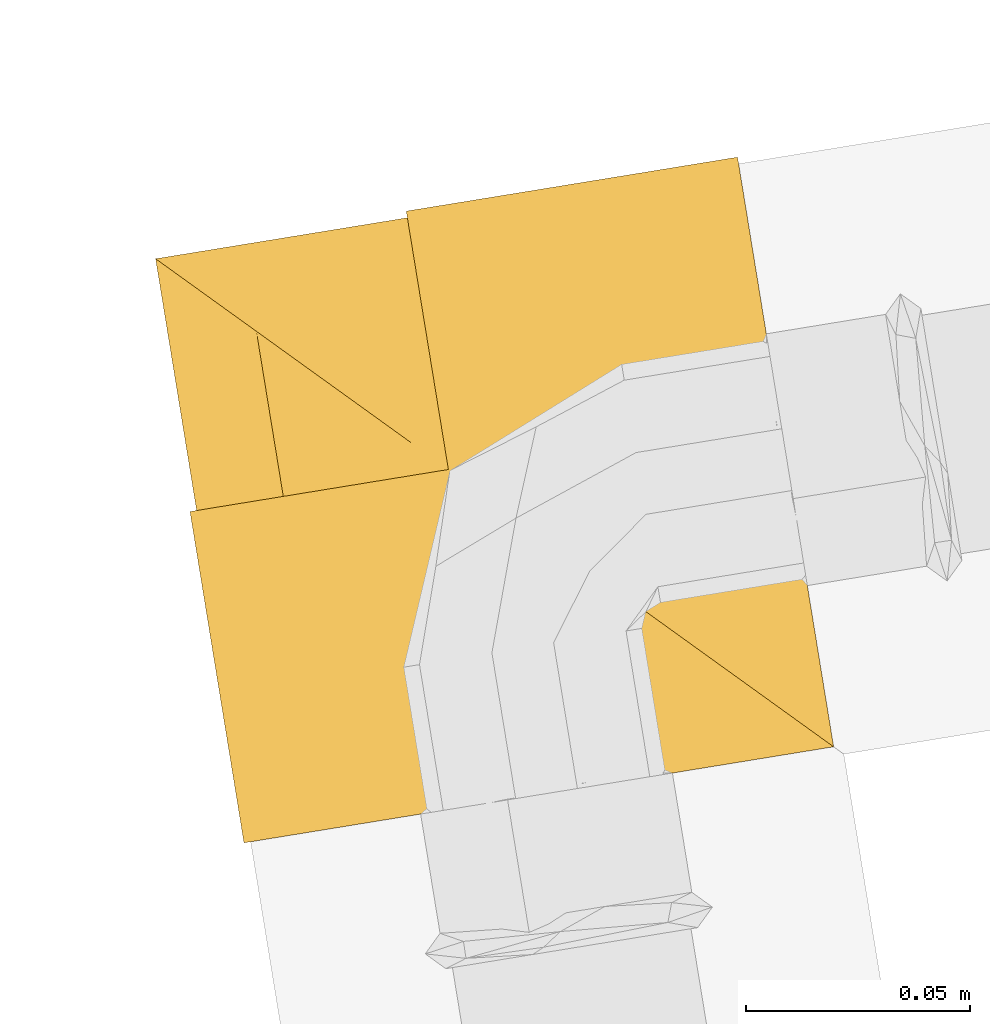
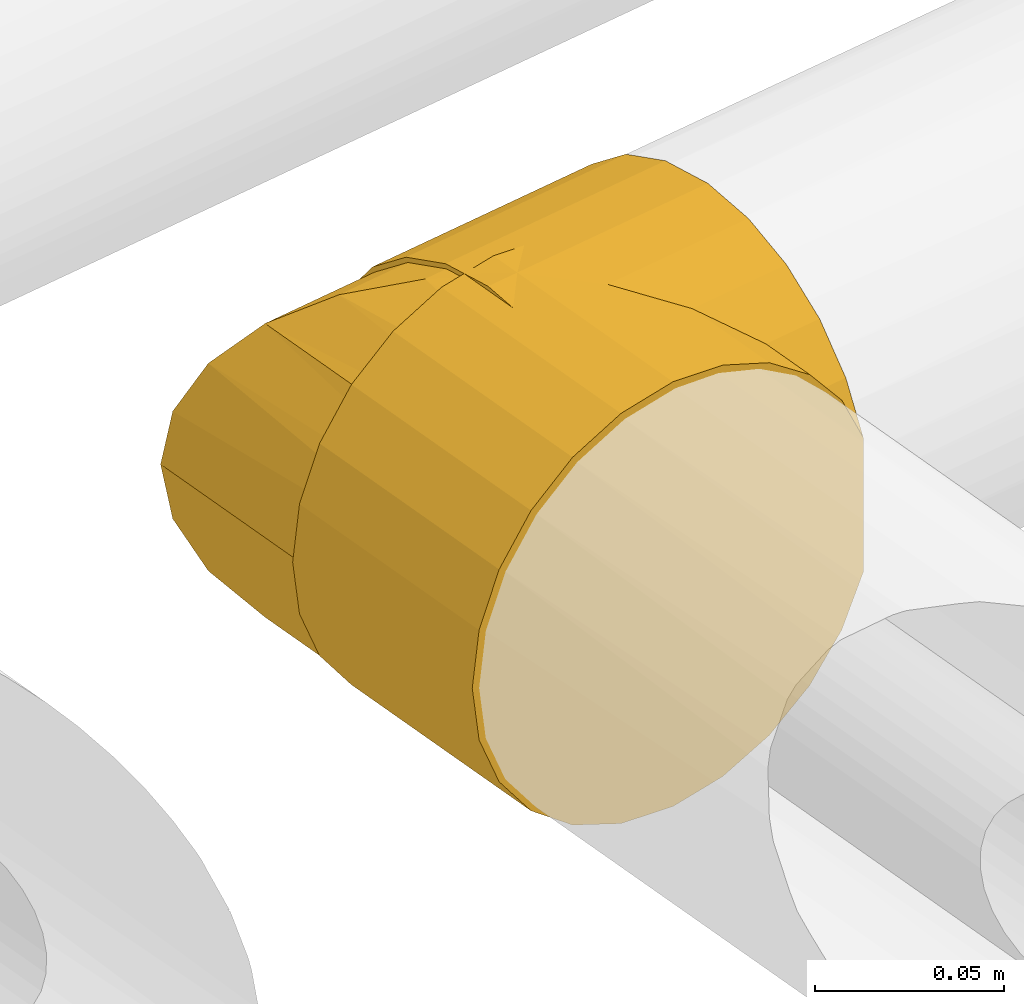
# One storey, part 11 of 46: 1 covering.
"""IFC2X3 building model written with IfcOpenShell, lengths in millimetres."""

import ifcopenshell
import ifcopenshell.guid

model = None  # the IFC model being written
_history = None  # IfcOwnerHistory: only IFC2X3 demands one
_inside = {}  # id of a spatial element -> (the spatial element, [elements in it])
_under = {}  # id of a project, library or spatial element -> (it, [spatial elements below it])
_declared = {}  # id of a project -> (the project, [libraries it declares])
_typed = {}  # id of a type object -> (the type object, [elements of that type])
_made_of = {}  # id of a material, layer set ... -> (it, [elements and type objects made of it])


def new_model(schema):
    """Start an empty IFC model of exactly this schema.

    Asked for "IFC4X3", IfcOpenShell would pick the latest addendum, in which some entities
    have other attributes; the version numbers below select the first issue.
    IFC2X3 requires an IfcOwnerHistory on every rooted entity: one is made here for all.
    """
    global model, _history
    if schema == "IFC4X3":
        model = ifcopenshell.file(schema_version=(4, 3, 0, 0))
    else:
        model = ifcopenshell.file(schema=schema)
    _inside.clear()
    _under.clear()
    _declared.clear()
    _typed.clear()
    _made_of.clear()
    _history = None
    if model.schema == "IFC2X3":
        org = make("IfcOrganization", Name="unknown")
        user = make(
            "IfcPersonAndOrganization",
            ThePerson=make("IfcPerson", FamilyName="unknown"),
            TheOrganization=org,
        )
        app = make(
            "IfcApplication",
            ApplicationDeveloper=org,
            Version="unknown",
            ApplicationFullName="unknown",
            ApplicationIdentifier="unknown",
        )
        _history = make(
            "IfcOwnerHistory",
            OwningUser=user,
            OwningApplication=app,
            ChangeAction="ADDED",
            CreationDate=0,
        )
    return model


def make(cls, **values):
    """One entity of the class cls with the attributes given. An attribute that is None is left unset."""
    return model.create_entity(
        cls, **{name: value for name, value in values.items() if value is not None}
    )


def entity(cls, *values):
    """Any entity or typed value of the class cls, its attributes in the order of the schema. None: left unset."""
    e = model.create_entity(cls)
    for i, value in enumerate(values):
        if value is not None:
            e[i] = value
    return e


def rooted(cls, **values):
    """An entity with a GlobalId (a new one), such as an element, a storey or a relation."""
    return make(cls, GlobalId=ifcopenshell.guid.new(), OwnerHistory=_history, **values)


def si_unit(unit_type, name, prefix=None):
    """IfcSIUnit, for example si_unit("LENGTHUNIT", "METRE", prefix="MILLI")."""
    return make("IfcSIUnit", UnitType=unit_type, Prefix=prefix, Name=name)


def converted_unit(unit_type, name, factor, base, dimensions=None, offset=None):
    """IfcConversionBasedUnit, such as the inch: factor (a typed value) times the base unit."""
    return make(
        "IfcConversionBasedUnit"
        if offset is None
        else "IfcConversionBasedUnitWithOffset",
        ConversionOffset=offset,
        Dimensions=None
        if dimensions is None
        else entity("IfcDimensionalExponents", *dimensions),
        UnitType=unit_type,
        Name=name,
        ConversionFactor=make(
            "IfcMeasureWithUnit", ValueComponent=factor, UnitComponent=base
        ),
    )


def derived_unit(unit_type, elements):
    """IfcDerivedUnit: a product of units, each with its exponent."""
    return make(
        "IfcDerivedUnit",
        Elements=[
            make("IfcDerivedUnitElement", Unit=unit, Exponent=power)
            for unit, power in elements
        ],
        UnitType=unit_type,
    )


def assignment(units):
    """IfcUnitAssignment: the units of a project."""
    return None if units is None else make("IfcUnitAssignment", Units=units)


def point(xyz):
    """IfcCartesianPoint."""
    return None if xyz is None else make("IfcCartesianPoint", Coordinates=xyz)


def direction(xyz):
    """IfcDirection."""
    return None if xyz is None else make("IfcDirection", DirectionRatios=xyz)


def frame(location, z_axis=None, x_axis=None):
    """IfcAxis2Placement3D, a coordinate frame: its origin and axes. An axis left out is left unset."""
    return make(
        "IfcAxis2Placement3D",
        Location=point(location),
        Axis=direction(z_axis),
        RefDirection=direction(x_axis),
    )


def origin():
    """The frame at (0, 0, 0) with its axes left unset."""
    return frame((0.0, 0.0, 0.0))


def origin_with_axes():
    """The frame at (0, 0, 0) with the z axis (0, 0, 1) and the x axis (1, 0, 0) written out."""
    return frame((0.0, 0.0, 0.0), z_axis=(0.0, 0.0, 1.0), x_axis=(1.0, 0.0, 0.0))


def place(relative_to, where):
    """IfcLocalPlacement: puts the frame where relative to a parent placement (None: the world)."""
    return make(
        "IfcLocalPlacement", PlacementRelTo=relative_to, RelativePlacement=where
    )


def context(
    kind, dimensions, precision=None, world=None, true_north=None, identifier=None
):
    """IfcGeometricRepresentationContext, for example the 3D "Model" context."""
    return make(
        "IfcGeometricRepresentationContext",
        ContextIdentifier=identifier,
        ContextType=kind,
        CoordinateSpaceDimension=dimensions,
        Precision=precision,
        WorldCoordinateSystem=world,
        TrueNorth=true_north,
    )


def subcontext(parent, identifier, kind, view, scale=None):
    """IfcGeometricRepresentationSubContext, for example "Body" below "Model"."""
    return make(
        "IfcGeometricRepresentationSubContext",
        ContextIdentifier=identifier,
        ContextType=kind,
        ParentContext=parent,
        TargetScale=scale,
        TargetView=view,
    )


def project(units=None, contexts=None):
    """IfcProject with its units and contexts."""
    return rooted(
        "IfcProject",
        Name="project",
        RepresentationContexts=contexts,
        UnitsInContext=assignment(units),
    )


def spatial(cls, under=None, at=None, **own):
    """A site, building, storey or space (cls), placed at a placement, below another one or the project."""
    s = rooted(cls, ObjectPlacement=at, **own)
    if under is not None:
        _under.setdefault(under.id(), (under, []))[1].append(s)
    return s


def faces_of(points, faces, orient=None, outer=None):
    """IfcFace entities. A face is a list of loops; a loop is a list of indices into points, from 0.

    orient and outer hold one flag for each loop. By default every Orientation is true, the
    first loop of a face is its IfcFaceOuterBound and the others are IfcFaceBound.
    """
    made = []
    for i, loops in enumerate(faces):
        bounds = []
        for j, loop in enumerate(loops):
            is_outer = j == 0 if outer is None else outer[i][j]
            bounds.append(
                make(
                    "IfcFaceOuterBound" if is_outer else "IfcFaceBound",
                    Bound=make("IfcPolyLoop", Polygon=[points[k] for k in loop]),
                    Orientation=True if orient is None else orient[i][j],
                )
            )
        made.append(make("IfcFace", Bounds=bounds))
    return made


def faceted_brep(points, faces, orient=None, outer=None, voids=None):
    """IfcFacetedBrep: a solid bounded by flat faces; with voids (closed shells), ...WithVoids."""
    shared = [point(p) for p in points]
    hull = make("IfcClosedShell", CfsFaces=faces_of(shared, faces, orient, outer))
    if voids is None:
        return make("IfcFacetedBrep", Outer=hull)
    return make(
        "IfcFacetedBrepWithVoids",
        Outer=hull,
        Voids=[
            make(cls, CfsFaces=faces_of(shared, fs, o, b)) for cls, fs, o, b in voids
        ],
    )


def shape(context_of_items, identifier, shape_type, items):
    """IfcShapeRepresentation: the items that make up one representation, for example the "Body"."""
    return make(
        "IfcShapeRepresentation",
        ContextOfItems=context_of_items,
        RepresentationIdentifier=identifier,
        RepresentationType=shape_type,
        Items=items,
    )


def material(Name=None, Category=None):
    """IfcMaterial."""
    return make("IfcMaterial", Name=Name, Category=Category)


def made_of(thing, what):
    """Note that an element or type object is made of a material, layer set ...; save() writes the relation."""
    if what is not None:
        _made_of.setdefault(what.id(), (what, []))[1].append(thing)
    return thing


def type_object(cls, material=None, **own):
    """A type object (cls), such as IfcWallType, which elements share."""
    return made_of(rooted(cls, **own), material)


def element(
    cls,
    number,
    at=None,
    inside=None,
    cuts=None,
    type_object=None,
    material=None,
    context=None,
    identifier="Body",
    shape_type=None,
    held_by="IfcProductDefinitionShape",
    body=None,
    shapes=None,
    **own,
):
    """One element of the class cls, such as IfcWall. Its Tag is "e" and its number.

    at: its placement. inside: the storey or other place that contains it. cuts: it is an
    opening in that element (IfcRelVoidsElement). A single representation is given by context,
    identifier, shape_type and body (its items); several are given by shapes. held_by: the class
    of the entity that holds the representations. save() writes the other relations.
    """
    e = rooted(cls, Tag="e%d" % number, ObjectPlacement=at, **own)
    if body is not None:
        shapes = [shape(context, identifier, shape_type, body)]
    if shapes is not None:
        e.Representation = make(held_by, Representations=shapes)
    if inside is not None:
        _inside.setdefault(inside.id(), (inside, []))[1].append(e)
    if cuts is not None:
        rooted(
            "IfcRelVoidsElement", RelatingBuildingElement=cuts, RelatedOpeningElement=e
        )
    if type_object is not None:
        _typed.setdefault(type_object.id(), (type_object, []))[1].append(e)
    return made_of(e, material)


def aggregate(whole, parts):
    """IfcRelAggregates: a whole, such as a stair, and the parts it consists of."""
    return rooted("IfcRelAggregates", RelatingObject=whole, RelatedObjects=parts)


def save(model, path):
    """Write the relations noted so far, then the file.

    IfcRelAggregates (storeys below a building ...), IfcRelContainedInSpatialStructure (elements
    in a storey), IfcRelDefinesByType, IfcRelAssociatesMaterial and IfcRelDeclares: one each for
    every whole, place, type object, material and project.
    """
    for whole, parts in _under.values():
        aggregate(whole, parts)
    for where, things in _inside.values():
        rooted(
            "IfcRelContainedInSpatialStructure",
            RelatedElements=things,
            RelatingStructure=where,
        )
    for kind, things in _typed.values():
        rooted("IfcRelDefinesByType", RelatedObjects=things, RelatingType=kind)
    for what, things in _made_of.values():
        rooted("IfcRelAssociatesMaterial", RelatedObjects=things, RelatingMaterial=what)
    for by, libraries in _declared.values():
        rooted("IfcRelDeclares", RelatingContext=by, RelatedDefinitions=libraries)
    model.write(path)


model = new_model("IFC2X3")

# Units and contexts
model_context = context("Model", 3, precision=0.01, world=origin(), true_north=direction((6.12323399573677e-17, 1.0)))
plan_context = context("Plan", 3, precision=1e-05, world=origin_with_axes())
body_context = subcontext(model_context, "Body", "Model", "MODEL_VIEW")
ifc_project = project(units=[converted_unit("PLANEANGLEUNIT", "DEGREE", entity("IfcPositiveLengthMeasure", 0.0174532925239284), si_unit("PLANEANGLEUNIT", "RADIAN"), dimensions=[0, 0, 0, 0, 0, 0, 0]), si_unit("AREAUNIT", "SQUARE_METRE"), si_unit("LENGTHUNIT", "METRE", prefix="MILLI"), si_unit("MASSUNIT", "GRAM", prefix="KILO"), si_unit("POWERUNIT", "WATT"), si_unit("PRESSUREUNIT", "PASCAL", prefix="KILO"), si_unit("FORCEUNIT", "NEWTON", prefix="KILO"), si_unit("ELECTRICVOLTAGEUNIT", "VOLT"), si_unit("ELECTRICCURRENTUNIT", "AMPERE"), si_unit("THERMODYNAMICTEMPERATUREUNIT", "DEGREE_CELSIUS"), si_unit("TIMEUNIT", "SECOND"), si_unit("VOLUMEUNIT", "CUBIC_METRE"), derived_unit("LINEARVELOCITYUNIT", [(si_unit("LENGTHUNIT", "METRE"), 1), (si_unit("TIMEUNIT", "SECOND"), -1)]), derived_unit("VOLUMETRICFLOWRATEUNIT", [(si_unit("VOLUMEUNIT", "CUBIC_METRE"), 1), (si_unit("TIMEUNIT", "SECOND"), -1)]), derived_unit("THERMALTRANSMITTANCEUNIT", [(si_unit("POWERUNIT", "WATT"), 1), (si_unit("THERMODYNAMICTEMPERATUREUNIT", "KELVIN"), -1), (si_unit("AREAUNIT", "SQUARE_METRE"), -1)]), derived_unit("SOUNDPRESSUREUNIT", [(si_unit("PRESSUREUNIT", "PASCAL"), 1)])], contexts=[model_context, plan_context])

# Site, building, storey
site_placement = place(None, frame((-3.09682673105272e-06, 1.93776733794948e-05, 0.0), z_axis=(0.0, 0.0, 1.0), x_axis=(-0.160806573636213, 0.986985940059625, 0.0)))
site = spatial("IfcSite", under=ifc_project, at=site_placement, Name="Default", CompositionType="ELEMENT")
building_placement = place(site_placement, frame((0.0, 0.0, 0.0), z_axis=(0.0, 0.0, 1.0), x_axis=(1.0, -2.77555756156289e-17, 0.0)))
building = spatial("IfcBuilding", under=site, at=building_placement, Name="Bygning (endres i Project Information)", CompositionType="ELEMENT")
storey_placement = place(building_placement, frame((0.0, 0.0, 51360.0000000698), z_axis=(0.0, 0.0, 1.0), x_axis=(1.0, -2.77555756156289e-17, 0.0)))
storey = spatial("IfcBuildingStorey", under=building, at=storey_placement, Name="H01-Nivå D+0,36", CompositionType="ELEMENT", Elevation=51360.0000000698)

# Covering
ifc_material = material(Name="3200.003 Tur")
covering_type = type_object("IfcCoveringType", Name="Pipe Insulation:GLAVA Rørskål ClimPipe Alu2, isol.kl.4, 45°C", PredefinedType="INSULATION")
covering_placement = place(storey_placement, frame((998986.84157057, -347624.026461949, 3369.90472776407), z_axis=(0.0, 0.0, 1.0), x_axis=(1.0, -2.77555756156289e-17, 0.0)))
element("IfcCovering", 1, at=covering_placement, inside=storey, type_object=covering_type, material=ifc_material, Name="Pipe Insulation:GLAVA Rørskål ClimPipe Alu2, isol.kl.4, 45°C", ObjectType="Pipe Insulation:GLAVA Rørskål ClimPipe Alu2, isol.kl.4, 45°C", PredefinedType="INSULATION", context=body_context, shape_type="Brep", body=[
    faceted_brep([(1.59527223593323, 1.59527223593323, 91.711238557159), (1.59527223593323, 76.5952722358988, 91.711238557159), (1.59527223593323, 76.5952722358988, 48.4793059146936), (1.59527223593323, 1.59527223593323, 48.4793059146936), (49.6488778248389, 76.5952722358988, 3.72457300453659), (33.7580719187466, 76.5952722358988, 9.97898263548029), (19.9085004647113, 76.5952722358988, 19.9694770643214), (8.96098181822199, 76.5952722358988, 33.074486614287), (8.96098181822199, 76.5952722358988, 107.116057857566), (19.9085004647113, 76.5952722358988, 120.221067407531), (33.7580719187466, 76.5952722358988, 130.211561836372), (49.6488778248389, 76.5952722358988, 136.465971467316), (66.5952722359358, 76.5952722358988, 138.595272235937), (84.3243768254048, 76.5952722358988, 136.261191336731), (100.845272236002, 76.5952722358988, 129.418012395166), (115.032086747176, 76.5952722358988, 118.53208674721), (125.918012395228, 76.5952722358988, 104.345272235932), (132.761191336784, 76.5952722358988, 87.8243768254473), (135.095272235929, 76.5952722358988, 70.0952722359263), (132.761191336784, 76.5952722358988, 52.3661676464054), (125.918012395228, 76.5952722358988, 35.8452722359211), (115.032086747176, 76.5952722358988, 21.6584577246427), (100.845272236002, 76.5952722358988, 10.7725320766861), (84.3243768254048, 76.5952722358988, 3.92935313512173), (66.5952722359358, 76.5952722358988, 1.5952722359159), (8.96098181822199, 1.59527223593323, 107.116057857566), (19.9085004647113, 1.59527223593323, 120.221067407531), (33.758071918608, 1.59527223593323, 130.211561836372), (49.6488778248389, 1.59527223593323, 136.465971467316), (66.5952722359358, 1.59527223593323, 138.595272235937), (84.3243768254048, 1.59527223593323, 136.261191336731), (100.845272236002, 1.59527223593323, 129.418012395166), (115.032086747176, 1.59527223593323, 118.53208674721), (125.918012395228, 1.59527223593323, 104.345272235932), (132.761191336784, 1.59527223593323, 87.8243768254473), (135.095272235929, 1.59527223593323, 70.0952722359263), (132.761191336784, 1.59527223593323, 52.3661676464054), (125.918012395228, 1.59527223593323, 35.8452722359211), (115.032086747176, 1.59527223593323, 21.6584577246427), (100.845272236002, 1.59527223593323, 10.7725320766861), (84.3243768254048, 1.59527223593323, 3.92935313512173), (66.5952722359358, 1.59527223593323, 1.5952722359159), (49.6488778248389, 1.59527223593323, 3.72457300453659), (33.758071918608, 1.59527223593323, 9.97898263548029), (19.9085004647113, 1.59527223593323, 19.9694770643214), (8.96098181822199, 1.59527223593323, 33.074486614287)], [[[0, 1, 2, 3]], [[4, 5, 6, 7, 2, 1, 8, 9, 10, 11, 12, 13, 14, 15, 16, 17, 18, 19, 20, 21, 22, 23, 24]], [[25, 26, 9, 8]], [[0, 25, 8, 1]], [[26, 27, 10, 9]], [[10, 27, 28, 11]], [[11, 28, 29, 12]], [[13, 30, 31, 14]], [[14, 31, 32, 15]], [[12, 29, 30, 13]], [[16, 33, 34, 17]], [[17, 34, 35, 18]], [[15, 32, 33, 16]], [[19, 36, 37, 20]], [[20, 37, 38, 21]], [[35, 36, 19, 18]], [[22, 39, 40, 23]], [[23, 40, 41, 24]], [[21, 38, 39, 22]], [[24, 41, 42, 4]], [[4, 42, 43, 5]], [[43, 44, 6, 5]], [[6, 44, 45, 7]], [[7, 45, 3, 2]], [[28, 27, 26, 25, 0, 3, 45, 44, 43, 42, 41, 40, 39, 38, 37, 36, 35, 34, 33, 32, 31, 30, 29]]]),
    faceted_brep([(76.5952722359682, 1.59527223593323, 48.4793059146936), (76.5952722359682, 1.59527223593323, 91.711238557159), (1.59527223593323, 1.59527223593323, 91.711238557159), (1.59527223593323, 1.59527223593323, 48.4793059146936), (76.5952722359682, 84.3243768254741, 3.92935313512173), (76.5952722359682, 100.845272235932, 10.7725320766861), (76.5952722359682, 115.032086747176, 21.6584577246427), (76.5952722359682, 125.918012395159, 35.8452722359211), (76.5952722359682, 132.761191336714, 52.3661676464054), (76.5952722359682, 135.095272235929, 70.0952722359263), (76.5952722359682, 132.761191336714, 87.8243768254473), (76.5952722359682, 125.918012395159, 104.345272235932), (76.5952722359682, 115.032086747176, 118.53208674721), (76.5952722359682, 100.845272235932, 129.418012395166), (76.5952722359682, 84.3243768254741, 136.261191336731), (76.5952722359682, 66.5952722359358, 138.595272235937), (76.5952722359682, 49.6488778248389, 136.465971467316), (76.5952722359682, 33.7580719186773, 130.211561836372), (76.5952722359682, 19.9085004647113, 120.221067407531), (76.5952722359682, 8.96098181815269, 107.116057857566), (76.5952722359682, 8.96098181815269, 33.074486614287), (76.5952722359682, 19.9085004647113, 19.9694770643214), (76.5952722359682, 33.7580719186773, 9.97898263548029), (76.5952722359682, 49.6488778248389, 3.72457300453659), (76.5952722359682, 66.5952722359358, 1.5952722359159), (1.59527223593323, 135.095272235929, 70.0952722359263), (1.59527223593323, 132.761191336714, 87.8243768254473), (1.59527223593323, 125.918012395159, 104.345272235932), (1.59527223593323, 115.032086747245, 118.53208674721), (1.59527223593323, 100.845272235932, 129.418012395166), (1.59527223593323, 84.3243768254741, 136.261191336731), (1.59527223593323, 66.5952722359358, 138.595272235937), (1.59527223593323, 49.6488778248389, 136.465971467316), (1.59527223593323, 33.7580719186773, 130.211561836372), (1.59527223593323, 19.9085004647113, 120.221067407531), (1.59527223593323, 8.96098181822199, 107.116057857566), (1.59527223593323, 8.96098181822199, 33.074486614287), (1.59527223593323, 19.9085004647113, 19.9694770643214), (1.59527223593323, 33.7580719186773, 9.97898263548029), (1.59527223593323, 49.6488778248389, 3.72457300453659), (1.59527223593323, 66.5952722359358, 1.5952722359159), (1.59527223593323, 84.3243768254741, 3.92935313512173), (1.59527223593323, 100.845272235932, 10.7725320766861), (1.59527223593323, 115.032086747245, 21.6584577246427), (1.59527223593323, 125.918012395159, 35.8452722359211), (1.59527223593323, 132.761191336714, 52.3661676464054)], [[[0, 1, 2, 3]], [[4, 5, 6, 7, 8, 9, 10, 11, 12, 13, 14, 15, 16, 17, 18, 19, 1, 0, 20, 21, 22, 23, 24]], [[25, 26, 10, 9]], [[12, 11, 27, 28]], [[27, 11, 10, 26]], [[13, 29, 30, 14]], [[14, 30, 31, 15]], [[12, 28, 29, 13]], [[15, 31, 32, 16]], [[16, 32, 33, 17]], [[33, 34, 18, 17]], [[18, 34, 35, 19]], [[19, 35, 2, 1]], [[0, 3, 36, 20]], [[20, 36, 37, 21]], [[37, 38, 22, 21]], [[22, 38, 39, 23]], [[23, 39, 40, 24]], [[4, 41, 42, 5]], [[5, 42, 43, 6]], [[40, 41, 4, 24]], [[7, 44, 45, 8]], [[8, 45, 25, 9]], [[6, 43, 44, 7]], [[2, 35, 34, 33, 32, 31, 30, 29, 28, 27, 26, 25, 45, 44, 43, 42, 41, 40, 39, 38, 37, 36, 3]]]),
    faceted_brep([(1.59527223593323, 25.6264791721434, 123.109968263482), (1.59527223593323, 44.9502339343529, 133.502624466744), (1.59527223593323, 66.5952722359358, 137.095272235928), (1.59527223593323, 79.4151672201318, 134.545236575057), (1.59527223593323, 92.2350622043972, 131.995200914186), (1.59527223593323, 103.103244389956, 124.73331374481), (1.59527223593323, 113.971426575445, 117.471426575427), (1.59527223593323, 121.233313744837, 106.603244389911), (1.59527223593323, 128.49520091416, 95.7350622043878), (1.59527223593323, 131.045236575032, 82.915167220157), (1.59527223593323, 133.595272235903, 70.0952722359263), (1.59527223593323, 131.045236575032, 57.2753772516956), (1.59527223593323, 128.49520091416, 44.4554822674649), (1.59527223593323, 121.233313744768, 33.5873000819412), (1.59527223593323, 113.971426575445, 22.7191178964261), (1.59527223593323, 103.103244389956, 15.4572307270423), (1.59527223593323, 92.2350622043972, 8.19534355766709), (1.59527223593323, 79.4151672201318, 5.64530789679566), (1.59527223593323, 66.5952722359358, 3.09527223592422), (1.59527223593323, 44.9502339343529, 6.68792000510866), (1.59527223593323, 1.79590397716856, 53.1197400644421), (1.59527223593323, 1.76100026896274, 53.1980186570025), (1.59527223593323, 1.76100026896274, 86.9925258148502), (1.59527223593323, 1.79590397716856, 87.0708044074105), (1.59527223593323, 1.83080768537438, 87.1490829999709), (1.59527223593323, 1.90061510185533, 87.3056401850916), (1.59527223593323, 1.97042251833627, 87.4621973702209), (1.59527223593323, 2.04022993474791, 87.6187545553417), (1.59527223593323, 2.1798447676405, 87.9318689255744), (1.59527223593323, 2.31945960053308, 88.2449832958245), (1.59527223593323, 2.45907443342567, 88.5580976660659), (1.59527223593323, 2.59868926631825, 88.871212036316), (1.59527223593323, 2.87791893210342, 89.4974407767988), (1.59527223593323, 3.15714859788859, 90.1236695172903), (1.59527223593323, 3.43637826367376, 90.7498982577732), (1.59527223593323, 3.71560792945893, 91.3761269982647), (1.59527223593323, 3.9948375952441, 92.0023557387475), (1.59527223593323, 4.55329692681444, 93.2548132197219), (1.59527223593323, 5.11175625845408, 94.5072707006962), (1.59527223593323, 5.67021559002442, 95.7597281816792), (1.59527223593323, 6.22867492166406, 97.0121856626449), (1.59527223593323, 7.34559358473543, 99.5171006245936), (1.59527223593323, 8.46251224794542, 102.022015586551), (1.59527223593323, 10.6963495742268, 107.031845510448), (1.59527223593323, 14.4288819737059, 111.051376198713), (1.59527223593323, 18.1614143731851, 115.070906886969), (1.59527223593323, 25.6264791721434, 17.0805762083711), (1.59527223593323, 18.1614143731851, 25.1196375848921), (1.59527223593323, 14.4288819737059, 29.1391682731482), (1.59527223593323, 10.6963495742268, 33.1586989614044), (1.59527223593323, 8.46251224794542, 38.1685288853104), (1.59527223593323, 7.34559358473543, 40.6734438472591), (1.59527223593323, 6.22867492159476, 43.1783588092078), (1.59527223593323, 5.67021558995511, 44.4308162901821), (1.59527223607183, 5.11175625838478, 45.6832737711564), (1.59527223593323, 4.55329692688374, 46.9357312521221), (1.59527223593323, 3.9948375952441, 48.1881887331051), (1.59527223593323, 3.71560792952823, 48.8144174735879), (1.59527223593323, 3.43637826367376, 49.4406462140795), (1.59527223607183, 3.15714859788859, 50.0668749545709), (1.59527223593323, 2.87791893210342, 50.6931036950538), (1.59527223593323, 2.59868926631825, 51.3193324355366), (1.59527223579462, 2.45907443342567, 51.6324468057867), (1.59527223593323, 2.31945960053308, 51.9455611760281), (1.59527223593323, 2.1798447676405, 52.2586755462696), (1.59527223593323, 2.04022993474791, 52.5717899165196), (131.312302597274, 1.59527223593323, 52.7543962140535), (133.595272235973, 1.59527223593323, 70.0952722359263), (131.312302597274, 1.59527223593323, 87.4361482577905), (124.618974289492, 1.59527223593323, 103.595272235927), (113.971426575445, 1.59527223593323, 117.471426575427), (100.095272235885, 1.59527223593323, 128.118974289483), (83.9361482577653, 1.59527223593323, 134.812302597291), (66.5952722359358, 1.59527223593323, 137.095272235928), (52.0191646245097, 1.59527223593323, 135.490509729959), (38.1413015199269, 1.59527223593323, 130.753095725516), (25.6264791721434, 1.59527223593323, 123.109968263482), (15.0741996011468, 1.59527223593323, 112.927258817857), (6.98995243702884, 1.59527223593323, 100.692753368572), (1.76100026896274, 1.59527223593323, 86.9925258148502), (1.76100026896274, 1.59527223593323, 53.1980186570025), (6.98995243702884, 1.59527223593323, 39.497791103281), (15.0741996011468, 1.59527223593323, 27.2632856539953), (25.6264791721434, 1.59527223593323, 17.0805762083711), (38.1413015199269, 1.59527223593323, 9.43744874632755), (52.0191646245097, 1.59527223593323, 4.70003474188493), (66.5952722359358, 1.59527223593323, 3.09527223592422), (83.9361482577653, 1.59527223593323, 5.37824187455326), (100.095272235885, 1.59527223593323, 12.0715701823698), (113.971426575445, 1.59527223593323, 22.7191178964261), (124.618974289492, 1.59527223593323, 36.5952722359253), (1.76100026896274, 1.76100026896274, 86.9925258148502), (1.76100026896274, 1.76100026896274, 53.1980186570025), (15.0741996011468, 15.0741996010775, 27.2632856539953), (25.6264791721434, 25.6264791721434, 17.0805762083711), (6.98995243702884, 6.98995243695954, 39.497791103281), (9.01101422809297, 9.01101422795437, 36.4391647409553), (11.0320760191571, 11.0320760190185, 33.3805383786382), (1.80185145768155, 1.80185145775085, 53.0909856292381), (1.84270264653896, 1.84270264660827, 52.9839526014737), (1.88355383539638, 1.88355383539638, 52.8769195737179), (1.92440502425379, 1.92440502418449, 52.7698865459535), (2.00610740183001, 2.00610740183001, 52.5558204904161), (2.08780977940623, 2.08780977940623, 52.341754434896), (2.25121453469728, 2.25121453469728, 51.9136223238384), (2.41461928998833, 2.41461928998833, 51.4854902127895), (2.57802404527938, 2.57802404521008, 51.0573581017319), (2.74142880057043, 2.74142880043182, 50.6292259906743), (3.06823831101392, 3.06823831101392, 49.7729617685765), (3.39504782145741, 3.39504782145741, 48.9166975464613), (3.72185733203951, 3.7218573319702, 48.0604333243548), (4.37547635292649, 4.37547635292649, 46.3479048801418), (5.02909537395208, 5.02909537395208, 44.6353764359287), (5.68271439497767, 5.68271439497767, 42.9228479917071), (52.0191646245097, 52.019164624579, 4.70003474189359), (66.5952722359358, 66.5952722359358, 3.09527223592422), (38.1413015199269, 38.1413015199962, 9.43744874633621), (83.9361482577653, 83.9361482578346, 5.37824187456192), (100.095272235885, 100.095272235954, 12.0715701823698), (113.971426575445, 113.971426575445, 22.7191178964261), (124.618974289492, 124.618974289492, 36.5952722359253), (131.312302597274, 131.312302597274, 52.7543962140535), (133.595272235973, 133.595272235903, 70.0952722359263), (131.312302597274, 131.312302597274, 87.4361482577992), (124.618974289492, 124.618974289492, 103.595272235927), (113.971426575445, 113.971426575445, 117.471426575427), (100.095272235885, 100.095272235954, 128.118974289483), (83.9361482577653, 83.9361482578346, 134.812302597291), (66.5952722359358, 66.5952722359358, 137.095272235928), (52.0191646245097, 52.019164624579, 135.490509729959), (38.1413015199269, 38.1413015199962, 130.753095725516), (25.6264791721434, 25.6264791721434, 123.109968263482), (6.98995243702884, 6.98995243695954, 100.692753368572), (5.68271439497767, 5.68271439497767, 97.2676964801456), (5.02909537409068, 5.02909537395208, 95.5551680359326), (4.37547635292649, 4.37547635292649, 93.8426395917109), (3.72185733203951, 3.7218573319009, 92.1301111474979), (3.39504782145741, 3.39504782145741, 91.2738469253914), (3.06823831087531, 3.06823831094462, 90.4175827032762), (2.74142880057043, 2.74142880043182, 89.5613184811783), (2.57802404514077, 2.57802404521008, 89.1331863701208), (2.41461928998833, 2.41461928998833, 88.7050542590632), (2.25121453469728, 2.25121453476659, 88.2769221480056), (2.08780977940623, 2.08780977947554, 87.8487900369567), (2.00610740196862, 2.00610740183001, 87.6347239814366), (1.92440502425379, 1.92440502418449, 87.4206579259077), (1.88355383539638, 1.88355383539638, 87.3136248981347), (1.84270264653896, 1.84270264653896, 87.206591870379), (1.80185145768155, 1.80185145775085, 87.0995588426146), (15.0741996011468, 15.0741996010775, 112.927258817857), (11.0320760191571, 11.0320760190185, 106.810006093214), (9.01101422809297, 9.01101422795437, 103.751379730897), (1.59527223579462, 1.97042251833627, 52.7283471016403), (1.59527223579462, 1.83080768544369, 53.0414614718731), (1.59527223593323, 1.90061510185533, 52.884904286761)], [[[0, 1, 2, 3, 4, 5, 6, 7, 8, 9, 10, 11, 12, 13, 14, 15, 16, 17, 18, 19, 20, 21, 22, 23, 24, 25, 26, 27, 28, 29, 30, 31, 32, 33, 34, 35, 36, 37, 38, 39, 40, 41, 42, 43, 44, 45]], [[19, 46, 47, 48, 49, 50, 51, 52, 53, 54, 55, 56, 57, 58, 59, 60, 61, 62, 63, 64, 65]], [[66, 67, 68, 69, 70, 71, 72, 73, 74, 75, 76, 77, 78, 79, 80, 81, 82, 83, 84, 85, 86, 87, 88, 89, 90]], [[80, 79, 91, 92]], [[82, 93, 94, 83]], [[82, 81, 95, 96, 97, 93]], [[80, 92, 81]], [[81, 98, 99, 100, 101, 102, 103, 104, 105, 106, 107, 108, 109, 110, 111, 112, 113, 95]], [[81, 92, 98]], [[114, 115, 86, 85]], [[116, 114, 85, 84]], [[94, 116, 84, 83]], [[87, 86, 115, 117]], [[88, 87, 117, 118]], [[118, 119, 89, 88]], [[66, 90, 120, 121]], [[67, 66, 121, 122]], [[119, 120, 90, 89]], [[67, 122, 123, 68]], [[68, 123, 124, 69]], [[69, 124, 125, 70]], [[70, 125, 126, 71]], [[71, 126, 127, 72]], [[128, 73, 72, 127]], [[129, 130, 75, 74]], [[128, 129, 74, 73]], [[75, 130, 131, 76]], [[78, 132, 133, 134, 135, 136, 137, 138, 139, 140, 141, 142, 143]], [[91, 79, 78]], [[78, 144, 145, 146, 147, 148]], [[77, 149, 150, 151, 132, 78]], [[76, 131, 149, 77]], [[92, 91, 22, 21]], [[112, 53, 113]], [[110, 55, 111]], [[111, 55, 54]], [[49, 97, 96]], [[110, 109, 57]], [[95, 50, 96]], [[94, 93, 47]], [[48, 97, 49]], [[47, 46, 94]], [[93, 48, 47]], [[116, 46, 19]], [[51, 113, 53, 52]], [[49, 96, 50]], [[114, 19, 18]], [[97, 48, 93]], [[114, 116, 19]], [[115, 114, 18]], [[95, 51, 50]], [[112, 111, 54]], [[46, 116, 94]], [[60, 107, 106]], [[113, 51, 95]], [[109, 108, 58]], [[55, 110, 57, 56]], [[64, 63, 62, 104]], [[112, 54, 53]], [[108, 59, 58]], [[107, 59, 108]], [[106, 105, 61]], [[59, 107, 60]], [[109, 58, 57]], [[152, 65, 102]], [[105, 62, 61]], [[104, 62, 105]], [[60, 106, 61]], [[104, 103, 64]], [[99, 153, 154]], [[103, 65, 64]], [[102, 101, 152]], [[65, 103, 102]], [[98, 20, 153]], [[101, 154, 152]], [[154, 101, 100, 99]], [[20, 92, 21]], [[153, 99, 98]], [[92, 20, 98]], [[118, 16, 15]], [[115, 17, 117]], [[16, 118, 117]], [[15, 119, 118]], [[13, 119, 14]], [[17, 16, 117]], [[14, 119, 15]], [[17, 115, 18]], [[119, 13, 120]], [[10, 122, 11]], [[12, 121, 120]], [[122, 121, 11]], [[121, 12, 11]], [[13, 12, 120]], [[122, 9, 123]], [[9, 122, 10]], [[7, 6, 125]], [[7, 125, 124]], [[124, 8, 7]], [[123, 8, 124]], [[5, 4, 126]], [[5, 125, 6]], [[125, 5, 126]], [[9, 8, 123]], [[2, 128, 3]], [[4, 127, 126]], [[128, 127, 3]], [[127, 4, 3]], [[129, 2, 1]], [[132, 42, 41]], [[0, 130, 1]], [[131, 130, 0]], [[149, 45, 44]], [[129, 128, 2]], [[130, 129, 1]], [[43, 151, 150]], [[41, 40, 39, 133]], [[139, 138, 33]], [[44, 43, 150]], [[37, 36, 35, 136]], [[135, 37, 136]], [[151, 43, 42]], [[149, 44, 150]], [[41, 133, 132]], [[131, 45, 149]], [[134, 39, 38]], [[45, 131, 0]], [[135, 38, 37]], [[42, 132, 151]], [[38, 135, 134]], [[142, 141, 30]], [[137, 35, 34]], [[33, 32, 139]], [[133, 39, 134]], [[138, 34, 33]], [[34, 138, 137]], [[27, 144, 143]], [[140, 32, 31]], [[30, 29, 28, 142]], [[32, 140, 139]], [[136, 35, 137]], [[141, 31, 30]], [[25, 147, 146, 145]], [[31, 141, 140]], [[143, 28, 27]], [[142, 28, 143]], [[24, 148, 147]], [[26, 144, 27]], [[145, 26, 25]], [[144, 26, 145]], [[23, 91, 148]], [[147, 25, 24]], [[91, 23, 22]], [[148, 24, 23]], [[19, 65, 152]], [[19, 154, 153]], [[19, 152, 154]], [[19, 153, 20]], [[78, 143, 144]], [[78, 148, 91]]]),
])

save(model, "model.ifc")
